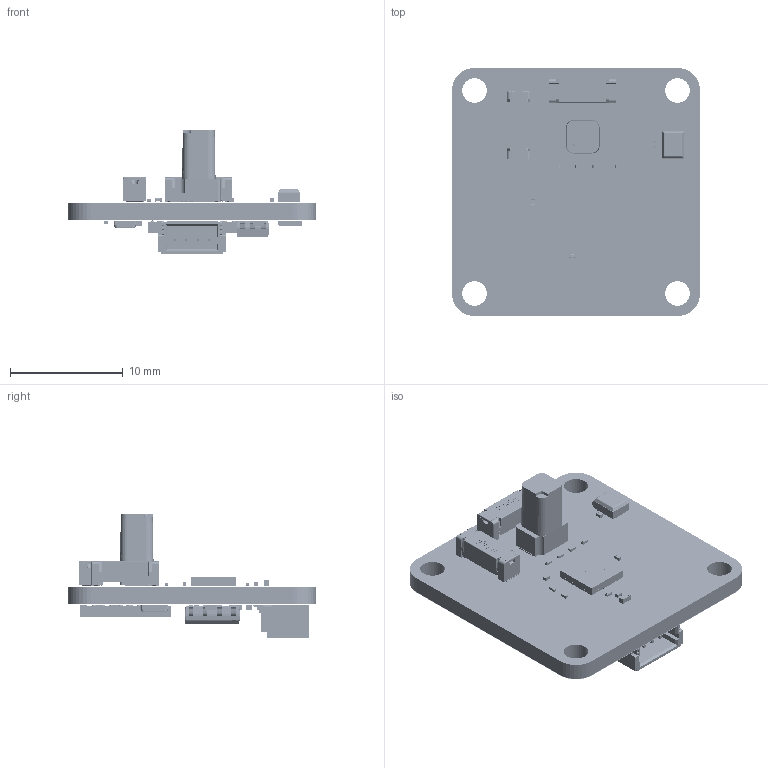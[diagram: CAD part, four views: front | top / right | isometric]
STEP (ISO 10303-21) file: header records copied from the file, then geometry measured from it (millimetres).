
FILE_DESCRIPTION(('KiCad electronic assembly'),'2;1');
FILE_NAME('AEROATMOS-POLARIS.step','2026-04-20T10:53:31',('Pcbnew'),( 'Kicad'),'Open CASCADE STEP processor 7.9','KiCad to STEP converter' ,'Unknown');
FILE_SCHEMA(('AUTOMOTIVE_DESIGN { 1 0 10303 214 1 1 1 1 }'));
Length unit declared in the file: millimetre
Products named in the file (39): AEROATMOS-POLARIS 1; (13104-R10)Sensor, Sen-XY-f; C_0201_0603Metric; (13156-R01)ASIC MagIC QFN 4X4; (13101-R07)Sensor Sen-Z-f; R_0201_0603Metric; C_0402_1005Metric; DPS368XTSA1; 1; 2; 2_3; 2_8; 2_6; 2_7; 2_9; 2_4; 2_2; 2_5; 3; 4; 5; Notch; Infineon Logo Adjustable; Infineon Logo Adjustable_5; SM04B-SRSS-TB_LF__SN_; MAX40203AUK+T; Body; PinsArrayL; PinsArrayR; PG-DSO-8-80_Z8B00008554_V14_3D; TFBGA-100_8x8mm_Layout10x10_P0.8mm; NCP167BMX330TBG; NX2520SA-24.000000MHZ-B8; AEROATMOS-POLARIS_silkscreen; AEROATMOS-POLARIS_soldermask; AEROATMOS-POLARIS_PCB
Assembly tree (71 placements, depth 4):
  AEROATMOS-POLARIS 1
    (13104-R10)Sensor, Sen-XY-f  x2
    C_0201_0603Metric  x12
    (13156-R01)ASIC MagIC QFN 4X4
    (13101-R07)Sensor Sen-Z-f
    R_0201_0603Metric  x10
    C_0402_1005Metric  x13
    DPS368XTSA1
      1
      2
        2_3
        2_8
        2_6
        2
        2_7
        2_9
        2_4
        2_2
        2_5
      3
      4
      5
      Notch
      Infineon Logo Adjustable
        Infineon Logo Adjustable_5
    SM04B-SRSS-TB_LF__SN_
    MAX40203AUK+T
      Body
      PinsArrayL
      PinsArrayR
    PG-DSO-8-80_Z8B00008554_V14_3D
    TFBGA-100_8x8mm_Layout10x10_P0.8mm
    NCP167BMX330TBG
    NX2520SA-24.000000MHZ-B8
    AEROATMOS-POLARIS_silkscreen
    AEROATMOS-POLARIS_silkscreen
    AEROATMOS-POLARIS_soldermask
    AEROATMOS-POLARIS_soldermask
    AEROATMOS-POLARIS_PCB
Bounding box: 22 x 22 x 10.98 mm (x, y, z)
Volume: 953.4 mm3; surface area: 3362.2 mm2
Topology: 132 solids, 269 shells, 6551 faces, 17485 edges, 11395 vertices
Faces by surface type: cylinder 2501, plane 2493, torus 1106, bspline 244, sphere 152, revolution 32, cone 23
Full cylindrical faces by diameter (mm): 0.11 x1, 0.203 x1, 0.227 x1, 0.8 x1, 0.801 x2, 2.2 x4
Entity records: 180366 total; most frequent: CARTESIAN_POINT 39219, DIRECTION 24622, ORIENTED_EDGE 22461, EDGE_CURVE 12224, AXIS2_PLACEMENT_3D 8739, VERTEX_POINT 8283, LINE 7120, VECTOR 7120
